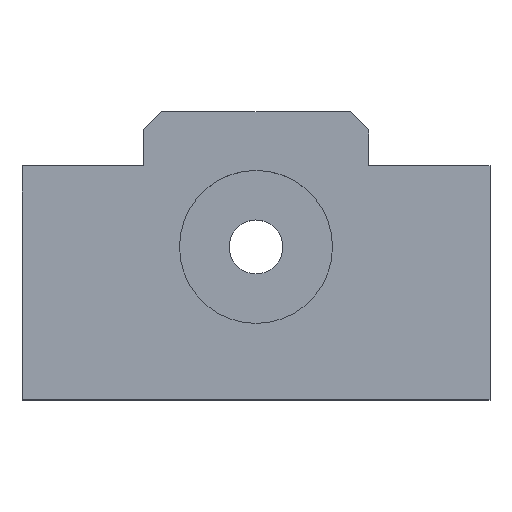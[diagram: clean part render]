
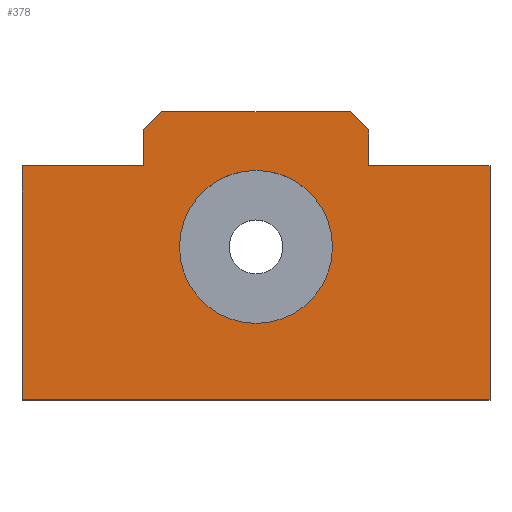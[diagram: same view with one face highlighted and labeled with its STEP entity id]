
A CAD part, top view. The second image highlights one B-rep face of the part: STEP entity #378.
In plain terms, the highlighted planar face has unit normal (0, 0, 1).
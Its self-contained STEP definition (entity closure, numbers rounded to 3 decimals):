
#42=FACE_BOUND($,#113,.T.);
#48=CIRCLE($,#396,8.5);
#73=FACE_OUTER_BOUND($,#112,.T.);
#112=EDGE_LOOP($,(#329,#330,#331,#332,#333,#334,#335,#336,#337,#338));
#113=EDGE_LOOP($,(#339));
#114=LINE($,#529,#144);
#120=LINE($,#540,#150);
#129=LINE($,#562,#159);
#132=LINE($,#567,#162);
#135=LINE($,#610,#165);
#137=LINE($,#613,#167);
#138=LINE($,#615,#168);
#139=LINE($,#618,#169);
#141=LINE($,#622,#171);
#143=LINE($,#625,#173);
#144=VECTOR($,#423,2.828);
#150=VECTOR($,#431,4.);
#159=VECTOR($,#446,2.828);
#162=VECTOR($,#451,4.);
#165=VECTOR($,#504,26.);
#167=VECTOR($,#508,13.5);
#168=VECTOR($,#511,21.);
#169=VECTOR($,#514,13.5);
#171=VECTOR($,#518,26.);
#173=VECTOR($,#522,52.);
#174=VERTEX_POINT($,#527);
#175=VERTEX_POINT($,#528);
#179=VERTEX_POINT($,#538);
#188=VERTEX_POINT($,#560);
#189=VERTEX_POINT($,#561);
#190=VERTEX_POINT($,#566);
#195=VERTEX_POINT($,#581);
#204=VERTEX_POINT($,#607);
#205=VERTEX_POINT($,#609);
#206=VERTEX_POINT($,#617);
#207=VERTEX_POINT($,#621);
#208=EDGE_CURVE($,#174,#175,#114,.T.);
#214=EDGE_CURVE($,#174,#179,#120,.T.);
#224=EDGE_CURVE($,#188,#189,#129,.T.);
#227=EDGE_CURVE($,#190,#189,#132,.T.);
#233=EDGE_CURVE($,#195,#195,#48,.T.);
#243=EDGE_CURVE($,#205,#204,#135,.T.);
#245=EDGE_CURVE($,#179,#205,#137,.T.);
#246=EDGE_CURVE($,#188,#175,#138,.T.);
#247=EDGE_CURVE($,#206,#190,#139,.T.);
#249=EDGE_CURVE($,#207,#206,#141,.T.);
#251=EDGE_CURVE($,#204,#207,#143,.T.);
#329=ORIENTED_EDGE($,*,*,#208,.F.);
#330=ORIENTED_EDGE($,*,*,#214,.T.);
#331=ORIENTED_EDGE($,*,*,#245,.T.);
#332=ORIENTED_EDGE($,*,*,#243,.T.);
#333=ORIENTED_EDGE($,*,*,#251,.T.);
#334=ORIENTED_EDGE($,*,*,#249,.T.);
#335=ORIENTED_EDGE($,*,*,#247,.T.);
#336=ORIENTED_EDGE($,*,*,#227,.T.);
#337=ORIENTED_EDGE($,*,*,#224,.F.);
#338=ORIENTED_EDGE($,*,*,#246,.T.);
#339=ORIENTED_EDGE($,*,*,#233,.T.);
#355=PLANE($,#418);
#378=ADVANCED_FACE($,(#73,#42),#355,.T.);
#396=AXIS2_PLACEMENT_3D($,#582,#469,#470);
#418=AXIS2_PLACEMENT_3D($,#626,#523,#524);
#423=DIRECTION($,(0.707,0.707,0.));
#431=DIRECTION($,(0.,-1.,0.));
#446=DIRECTION($,(0.707,-0.707,0.));
#451=DIRECTION($,(0.,1.,0.));
#469=DIRECTION('center_axis',(0.,0.,-1.));
#470=DIRECTION('ref_axis',(-1.,0.,0.));
#504=DIRECTION($,(0.,-1.,0.));
#508=DIRECTION($,(-1.,0.,0.));
#511=DIRECTION($,(-1.,0.,0.));
#514=DIRECTION($,(-1.,0.,0.));
#518=DIRECTION($,(0.,1.,0.));
#522=DIRECTION($,(1.,0.,0.));
#523=DIRECTION('center_axis',(0.,0.,1.));
#524=DIRECTION('ref_axis',(1.,0.,0.));
#527=CARTESIAN_POINT('',(13.5,30.,14.));
#528=CARTESIAN_POINT('',(15.5,32.,14.));
#529=CARTESIAN_POINT($,(13.384,29.884,14.));
#538=CARTESIAN_POINT('',(13.5,26.,14.));
#540=CARTESIAN_POINT($,(13.5,32.,14.));
#560=CARTESIAN_POINT('',(36.5,32.,14.));
#561=CARTESIAN_POINT('',(38.5,30.,14.));
#562=CARTESIAN_POINT($,(38.616,29.884,14.));
#566=CARTESIAN_POINT('',(38.5,26.,14.));
#567=CARTESIAN_POINT($,(38.5,26.,14.));
#581=CARTESIAN_POINT('',(34.5,17.,14.));
#582=CARTESIAN_POINT('Origin',(26.,17.,14.));
#607=CARTESIAN_POINT('',(0.,0.,14.));
#609=CARTESIAN_POINT('',(0.,26.,14.));
#610=CARTESIAN_POINT($,(0.,26.,14.));
#613=CARTESIAN_POINT($,(13.5,26.,14.));
#615=CARTESIAN_POINT($,(38.5,32.,14.));
#617=CARTESIAN_POINT('',(52.,26.,14.));
#618=CARTESIAN_POINT($,(52.,26.,14.));
#621=CARTESIAN_POINT('',(52.,0.,14.));
#622=CARTESIAN_POINT($,(52.,0.,14.));
#625=CARTESIAN_POINT($,(0.,0.,14.));
#626=CARTESIAN_POINT('Origin',(26.,15.036,14.));
